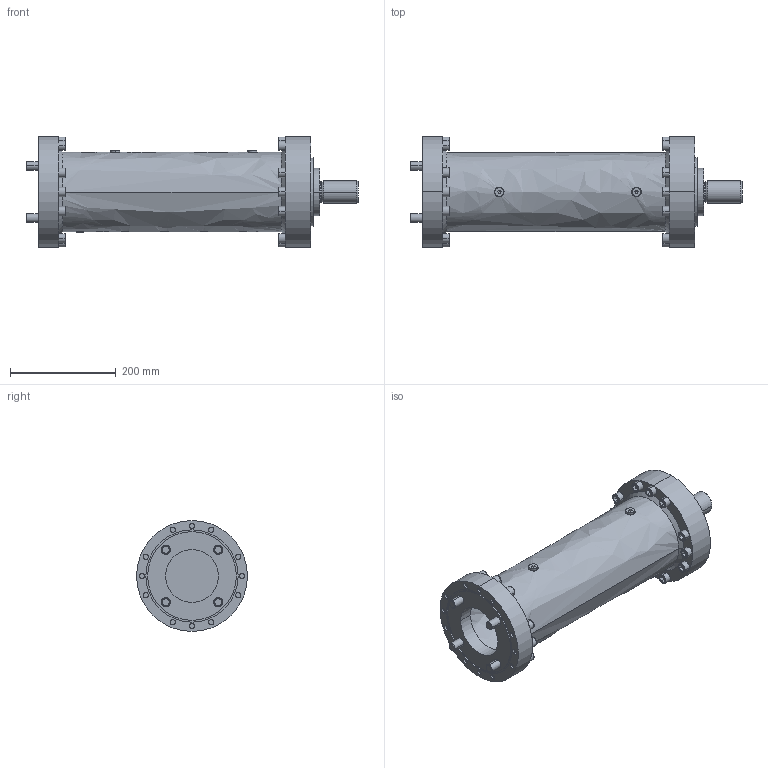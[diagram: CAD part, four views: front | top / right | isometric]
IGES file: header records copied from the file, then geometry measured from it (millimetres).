
Start section: Elysium IGES Interface
Global section: file name: \\sipapp01\Daten\Public\_BRN\Maßbilder - 3D - Explosionsdarstellungen\3D-Volumenmodelle SIPOS 7\Lineareinheiten 2SL78\KR_LD.1...34.igs; native system: Creo Elements/Direct Modeling 20.0C  26-Jan-2018; preprocessor: Creo Element/Direct IGES_3D V2.2; author: Unknown; organization: Unknown; date: 20200513.115623; units: millimetre
Bounding box: 629.2 x 210 x 210 mm (x, y, z)
Volume: 5392115.8 mm3; surface area: 713400 mm2
Topology: 1 solids, 41 shells, 1125 faces, 2692 edges, 1710 vertices
Faces by surface type: bspline 1125
